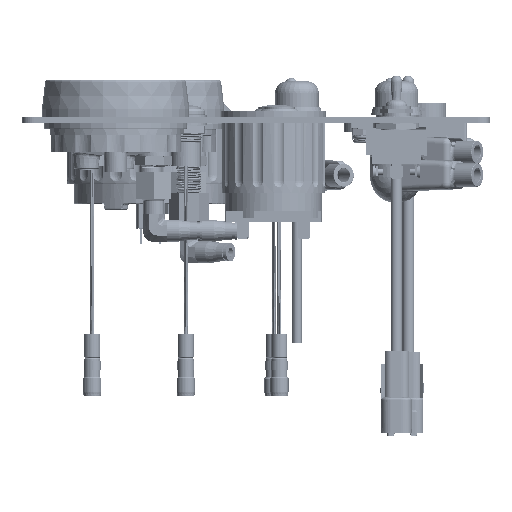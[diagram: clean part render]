
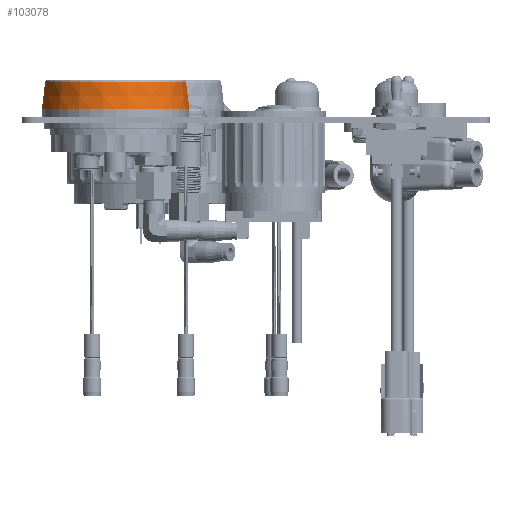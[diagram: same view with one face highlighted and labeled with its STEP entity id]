
A CAD part, left-side view. The second image highlights one B-rep face of the part: STEP entity #103078.
In plain terms, the highlighted conical face has half-angle 6.843 degrees and reference radius 38.1 mm.
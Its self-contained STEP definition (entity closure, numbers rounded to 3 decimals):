
#167 = VERTEX_POINT ( 'NONE', #231987 ) ;
#4185 = VECTOR ( 'NONE', #80967, 1000. ) ;
#26915 = EDGE_CURVE ( 'NONE', #255537, #111093, #239521, .T. ) ;
#32399 = VECTOR ( 'NONE', #100356, 1000. ) ;
#43368 = CARTESIAN_POINT ( 'NONE',  ( -165.1, 243.205, 7.62 ) ) ;
#64158 = AXIS2_PLACEMENT_3D ( 'NONE', #122175, #303757, #148296 ) ;
#68129 = ORIENTED_EDGE ( 'NONE', *, *, #243917, .T. ) ;
#68412 = CARTESIAN_POINT ( 'NONE',  ( -165.1, 241.469, 22.085 ) ) ;
#74520 = CARTESIAN_POINT ( 'NONE',  ( -165.1, 203.2, 7.62 ) ) ;
#80967 = DIRECTION ( 'NONE',  ( 0., -0.119, -0.993 ) ) ;
#81596 = AXIS2_PLACEMENT_3D ( 'NONE', #278785, #99454, #229984 ) ;
#91844 = ORIENTED_EDGE ( 'NONE', *, *, #313670, .T. ) ;
#99454 = DIRECTION ( 'NONE',  ( 0., 0., -1. ) ) ;
#100356 = DIRECTION ( 'NONE',  ( 0., 0.119, -0.993 ) ) ;
#100635 = DIRECTION ( 'NONE',  ( 0., 1., 0. ) ) ;
#103078 = ADVANCED_FACE ( 'NONE', ( #161565 ), #267010, .T. ) ;
#105895 = CARTESIAN_POINT ( 'NONE',  ( -165.1, 165.1, 23.495 ) ) ;
#111093 = VERTEX_POINT ( 'NONE', #43368 ) ;
#122175 = CARTESIAN_POINT ( 'NONE',  ( -165.1, 203.2, 22.085 ) ) ;
#123446 = ORIENTED_EDGE ( 'NONE', *, *, #336392, .F. ) ;
#142177 = LINE ( 'NONE', #105895, #4185 ) ;
#148296 = DIRECTION ( 'NONE',  ( 0., 1., 0. ) ) ;
#154819 = VERTEX_POINT ( 'NONE', #271031 ) ;
#161484 = ORIENTED_EDGE ( 'NONE', *, *, #26915, .T. ) ;
#161565 = FACE_OUTER_BOUND ( 'NONE', #187797, .T. ) ;
#185313 = AXIS2_PLACEMENT_3D ( 'NONE', #74520, #256177, #100635 ) ;
#187757 = CIRCLE ( 'NONE', #185313, 40.005 ) ;
#187797 = EDGE_LOOP ( 'NONE', ( #91844, #161484, #68129, #123446 ) ) ;
#229784 = CARTESIAN_POINT ( 'NONE',  ( -165.1, 241.3, 23.495 ) ) ;
#229984 = DIRECTION ( 'NONE',  ( 0., -1., 0. ) ) ;
#231987 = CARTESIAN_POINT ( 'NONE',  ( -165.1, 164.931, 22.085 ) ) ;
#239521 = LINE ( 'NONE', #229784, #32399 ) ;
#243917 = EDGE_CURVE ( 'NONE', #111093, #154819, #187757, .T. ) ;
#255537 = VERTEX_POINT ( 'NONE', #68412 ) ;
#256177 = DIRECTION ( 'NONE',  ( 0., 0., 1. ) ) ;
#267010 = CONICAL_SURFACE ( 'NONE', #81596, 38.1, 0.119 ) ;
#271031 = CARTESIAN_POINT ( 'NONE',  ( -165.1, 163.195, 7.62 ) ) ;
#273997 = CIRCLE ( 'NONE', #64158, 38.269 ) ;
#278785 = CARTESIAN_POINT ( 'NONE',  ( -165.1, 203.2, 23.495 ) ) ;
#303757 = DIRECTION ( 'NONE',  ( 0., 0., -1. ) ) ;
#313670 = EDGE_CURVE ( 'NONE', #167, #255537, #273997, .T. ) ;
#336392 = EDGE_CURVE ( 'NONE', #167, #154819, #142177, .T. ) ;
